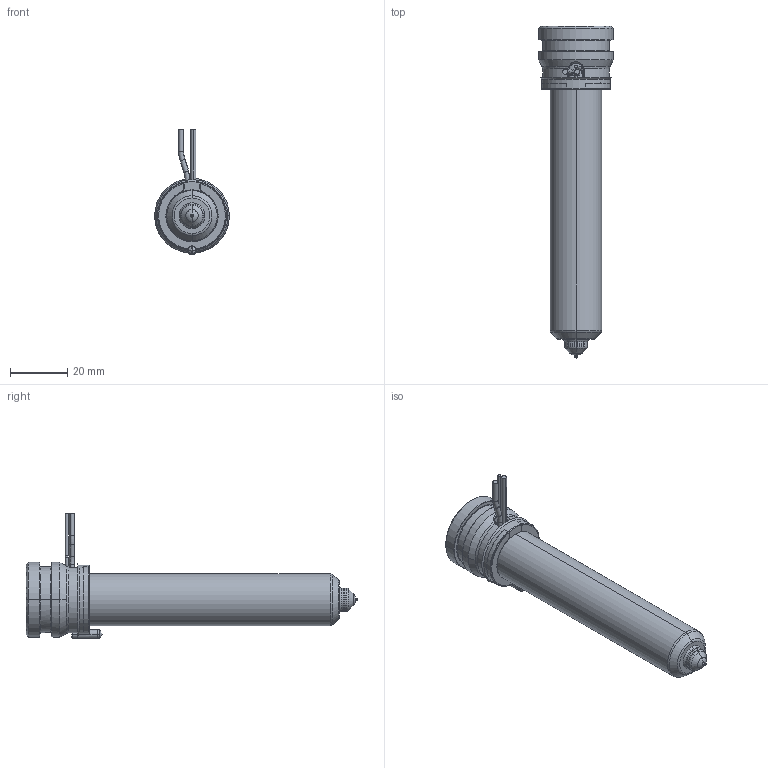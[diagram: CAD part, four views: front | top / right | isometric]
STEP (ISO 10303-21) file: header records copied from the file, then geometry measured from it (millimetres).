
FILE_DESCRIPTION((''),'2;1');
FILE_NAME('MPN-08-24-VX8-096-A','2026-02-05T11:59:52',('UPTIO'),('Thermoplay S.p.A.'),'CREO PARAMETRIC BY PTC INC, 2023494','CREO PARAMETRIC BY PTC INC, 2023494','');
FILE_SCHEMA(('CONFIG_CONTROL_DESIGN','SHAPE_APPEARANCE_LAYERS_GROUPS'));
Length unit declared in the file: millimetre
Products named in the file (1): MPN-08-24-VX8-096-A
Bounding box: 26 x 115.5 x 43.5 mm (x, y, z)
Volume: 22667.4 mm3; surface area: 28627.4 mm2
Topology: 2 solids, 3 shells, 545 faces, 1438 edges, 891 vertices
Faces by surface type: cylinder 180, plane 143, bspline 82, cone 62, torus 62, sphere 10, extrusion 6
Entity records: 28719 total; most frequent: CARTESIAN_POINT 12480, ORIENTED_EDGE 2860, DIRECTION 2578, EDGE_CURVE 1430, AXIS2_PLACEMENT_3D 1007, VERTEX_POINT 891, EDGE_LOOP 573, VECTOR 564
